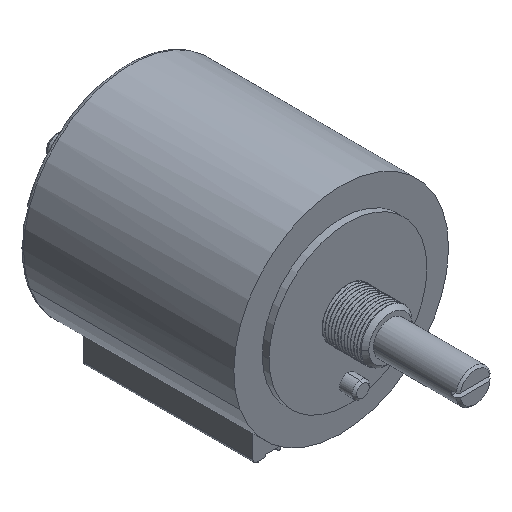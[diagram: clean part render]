
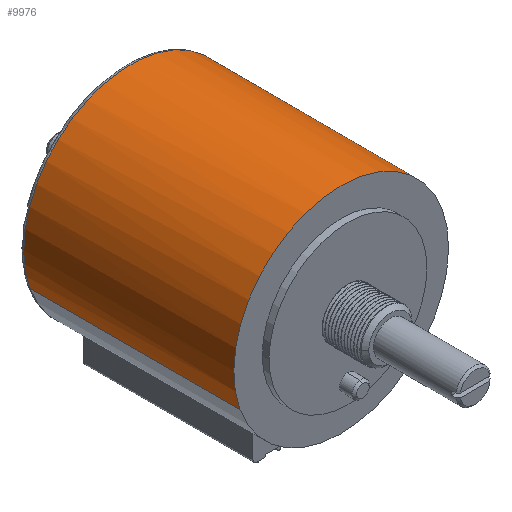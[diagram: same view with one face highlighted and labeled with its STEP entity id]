
A CAD part, isometric view. The second image highlights one B-rep face of the part: STEP entity #9976.
In plain terms, the highlighted cylindrical face has radius 25.3 mm (diameter 50.6 mm), a partial arc.
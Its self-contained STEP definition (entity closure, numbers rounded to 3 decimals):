
#705 = AXIS2_PLACEMENT_3D ( 'NONE', #8903, #8895, #8894 ) ;
#4733 = ORIENTED_EDGE ( 'NONE', *, *, #7840, .F. ) ;
#4743 = ORIENTED_EDGE ( 'NONE', *, *, #7845, .T. ) ;
#4758 = ORIENTED_EDGE ( 'NONE', *, *, #7856, .F. ) ;
#4782 = ORIENTED_EDGE ( 'NONE', *, *, #7833, .T. ) ;
#4788 = ORIENTED_EDGE ( 'NONE', *, *, #7837, .T. ) ;
#5576 = VERTEX_POINT ( 'NONE', #6142 ) ;
#5760 = VERTEX_POINT ( 'NONE', #6276 ) ;
#5771 = VERTEX_POINT ( 'NONE', #6287 ) ;
#5798 = VERTEX_POINT ( 'NONE', #6314 ) ;
#5835 = VERTEX_POINT ( 'NONE', #6349 ) ;
#6142 = CARTESIAN_POINT ( 'NONE',  ( -23.845, -8.456, -2.6 ) ) ;
#6276 = CARTESIAN_POINT ( 'NONE',  ( 23.845, 8.456, -2.6 ) ) ;
#6287 = CARTESIAN_POINT ( 'NONE',  ( -23.845, -8.456, 46.9 ) ) ;
#6314 = CARTESIAN_POINT ( 'NONE',  ( 23.845, 8.456, 46.9 ) ) ;
#6349 = CARTESIAN_POINT ( 'NONE',  ( -25.3, 0., -2.6 ) ) ;
#6741 = CARTESIAN_POINT ( 'NONE',  ( 0., 0., -2.6 ) ) ;
#6742 = DIRECTION ( 'NONE',  ( 0., 0., 1. ) ) ;
#6743 = DIRECTION ( 'NONE',  ( 1., 0., 0. ) ) ;
#6750 = CARTESIAN_POINT ( 'NONE',  ( -23.845, -8.456, 10. ) ) ;
#6751 = CARTESIAN_POINT ( 'NONE',  ( 0., 0., 46.9 ) ) ;
#6754 = DIRECTION ( 'NONE',  ( 0., 0., 1. ) ) ;
#6761 = DIRECTION ( 'NONE',  ( 0., 0., 1. ) ) ;
#6762 = DIRECTION ( 'NONE',  ( 1., 0., 0. ) ) ;
#6781 = CARTESIAN_POINT ( 'NONE',  ( 0., 0., -2.6 ) ) ;
#6782 = DIRECTION ( 'NONE',  ( 0., 0., 1. ) ) ;
#6783 = DIRECTION ( 'NONE',  ( 1., 0., 0. ) ) ;
#6812 = CARTESIAN_POINT ( 'NONE',  ( 23.845, 8.456, 10. ) ) ;
#6813 = DIRECTION ( 'NONE',  ( 0., 0., 1. ) ) ;
#7682 = EDGE_LOOP ( 'NONE', ( #4782, #4788, #4733, #4758, #4743 ) ) ;
#7833 = EDGE_CURVE ( 'NONE', #5835, #5576, #11694, .T. ) ;
#7837 = EDGE_CURVE ( 'NONE', #5576, #5771, #11671, .T. ) ;
#7840 = EDGE_CURVE ( 'NONE', #5798, #5771, #11701, .T. ) ;
#7845 = EDGE_CURVE ( 'NONE', #5760, #5835, #11706, .T. ) ;
#7856 = EDGE_CURVE ( 'NONE', #5760, #5798, #11711, .T. ) ;
#8894 = DIRECTION ( 'NONE',  ( 0.942, 0.334, 0. ) ) ;
#8895 = DIRECTION ( 'NONE',  ( 0., 0., 1. ) ) ;
#8903 = CARTESIAN_POINT ( 'NONE',  ( 0., 0., 10. ) ) ;
#9502 = FACE_OUTER_BOUND ( 'NONE', #7682, .T. ) ;
#9503 = CYLINDRICAL_SURFACE ( 'NONE', #705, 25.3 ) ;
#9976 = ADVANCED_FACE ( 'NONE', ( #9502 ), #9503, .T. ) ;
#10282 = AXIS2_PLACEMENT_3D ( 'NONE', #6741, #6742, #6743 ) ;
#10288 = AXIS2_PLACEMENT_3D ( 'NONE', #6751, #6761, #6762 ) ;
#10291 = AXIS2_PLACEMENT_3D ( 'NONE', #6781, #6782, #6783 ) ;
#11671 = LINE ( 'NONE', #6750, #11698 ) ;
#11694 = CIRCLE ( 'NONE', #10282, 25.3 ) ;
#11698 = VECTOR ( 'NONE', #6754, 1000. ) ;
#11701 = CIRCLE ( 'NONE', #10288, 25.3 ) ;
#11706 = CIRCLE ( 'NONE', #10291, 25.3 ) ;
#11711 = LINE ( 'NONE', #6812, #11715 ) ;
#11715 = VECTOR ( 'NONE', #6813, 1000. ) ;
